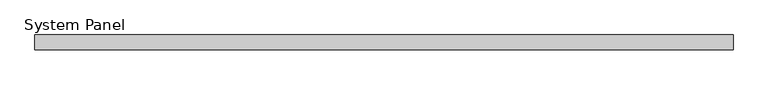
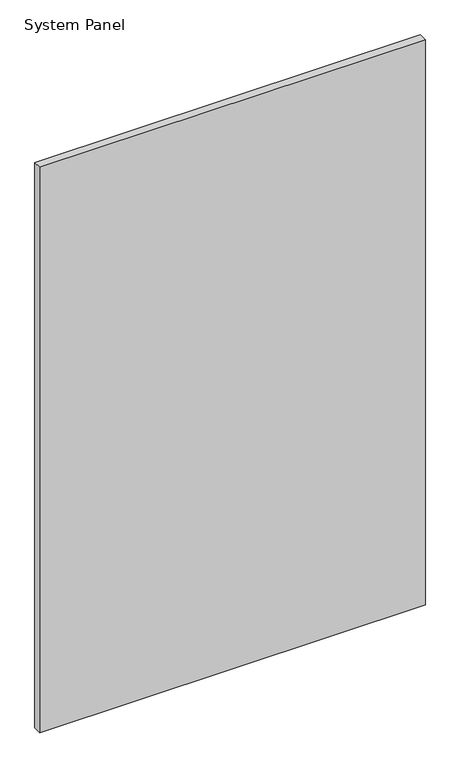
"""IFC4 building model written with IfcOpenShell, lengths in millimetres: plate geometry, System Panel : Panel_Glazed_Generic Showcase_30mm."""

from ifc_helpers import new_model, si_unit, origin, origin_with_axes, place, context, project, spatial, polyline, outline, extrude, source, transform, mapped, element, save


def system_panel_5d7f3ae3(model_context):
    return source(origin(), model_context, "Body", "SweptSolid", [
        extrude(outline(polyline([(709.726735, 0.0), (-709.726735, 0.0), (-709.726735, 30.0), (709.726735, 30.0), (709.726735, 0.0)])), origin_with_axes(), (0.0, 0.0, 1.0), 2200.0),
    ])


if __name__ == "__main__":
    model = new_model("IFC4")
    model_context = context("Model", 3, world=origin())
    ifc_project = project(units=[si_unit("LENGTHUNIT", "METRE", prefix="MILLI")], contexts=[model_context])
    site = spatial("IfcSite", under=ifc_project)
    building = spatial("IfcBuilding", under=site)
    placement = place(None, origin())
    system_panel_shape = system_panel_5d7f3ae3(model_context)
    element("IfcPlate", 1, ObjectType="System Panel : Panel_Glazed_Generic Showcase_30mm", at=placement, inside=building, context=model_context, shape_type="MappedRepresentation", body=[
        mapped(system_panel_shape, transform((0.0, 0.0, 0.0), x_axis=(1.0, 0.0, 0.0), y_axis=(0.0, 1.0, 0.0), z_axis=(0.0, 0.0, 1.0))),
    ])
    save(model, "model.ifc")
